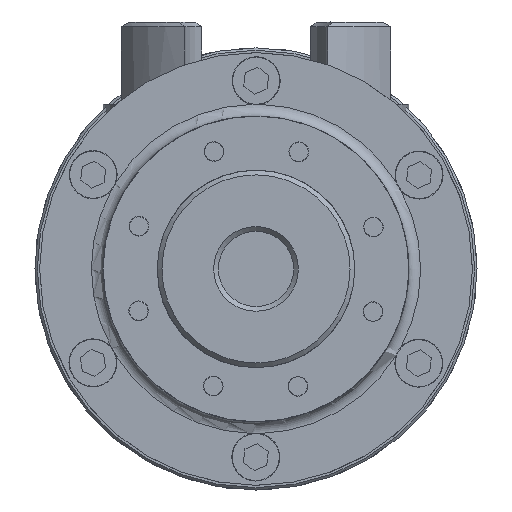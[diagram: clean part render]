
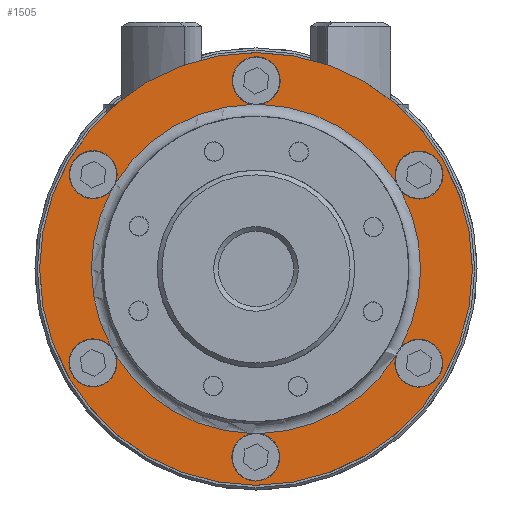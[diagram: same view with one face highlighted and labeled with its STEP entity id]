
A CAD part, left-side view. The second image highlights one B-rep face of the part: STEP entity #1505.
In plain terms, the highlighted planar face has unit normal (-1, 0, 0).
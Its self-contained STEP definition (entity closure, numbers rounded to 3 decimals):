
#1505 = ADVANCED_FACE( '', ( #2793, #2794 ), #2795, .F. );
#2793 = FACE_OUTER_BOUND( '', #3881, .T. );
#2794 = FACE_BOUND( '', #3882, .T. );
#2795 = PLANE( '', #3883 );
#3881 = EDGE_LOOP( '', ( #5718 ) );
#3882 = EDGE_LOOP( '', ( #5719, #5720, #5721, #5722, #5723, #5724, #5725, #5726, #5727, #5728, #5729, #5730 ) );
#3883 = AXIS2_PLACEMENT_3D( '', #5731, #5732, #5733 );
#5718 = ORIENTED_EDGE( '', *, *, #7534, .T. );
#5719 = ORIENTED_EDGE( '', *, *, #7580, .T. );
#5720 = ORIENTED_EDGE( '', *, *, #7567, .T. );
#5721 = ORIENTED_EDGE( '', *, *, #7587, .T. );
#5722 = ORIENTED_EDGE( '', *, *, #7588, .T. );
#5723 = ORIENTED_EDGE( '', *, *, #7585, .T. );
#5724 = ORIENTED_EDGE( '', *, *, #7576, .T. );
#5725 = ORIENTED_EDGE( '', *, *, #7584, .T. );
#5726 = ORIENTED_EDGE( '', *, *, #7550, .T. );
#5727 = ORIENTED_EDGE( '', *, *, #7583, .T. );
#5728 = ORIENTED_EDGE( '', *, *, #7563, .T. );
#5729 = ORIENTED_EDGE( '', *, *, #7582, .T. );
#5730 = ORIENTED_EDGE( '', *, *, #7589, .T. );
#5731 = CARTESIAN_POINT( '', ( -22., 46., 0. ) );
#5732 = DIRECTION( '', ( 1., 0., 0. ) );
#5733 = DIRECTION( '', ( 0., 1., 0. ) );
#7534 = EDGE_CURVE( '', #8674, #8674, #8675, .F. );
#7550 = EDGE_CURVE( '', #8701, #8700, #8703, .T. );
#7563 = EDGE_CURVE( '', #8719, #8718, #8721, .T. );
#7567 = EDGE_CURVE( '', #8551, #8550, #8726, .T. );
#7576 = EDGE_CURVE( '', #8707, #8706, #8741, .T. );
#7580 = EDGE_CURVE( '', #8747, #8551, #8748, .T. );
#7582 = EDGE_CURVE( '', #8718, #8749, #8751, .T. );
#7583 = EDGE_CURVE( '', #8700, #8719, #8752, .T. );
#7584 = EDGE_CURVE( '', #8706, #8701, #8753, .T. );
#7585 = EDGE_CURVE( '', #8754, #8707, #8755, .T. );
#7587 = EDGE_CURVE( '', #8550, #8756, #8758, .T. );
#7588 = EDGE_CURVE( '', #8756, #8754, #8759, .T. );
#7589 = EDGE_CURVE( '', #8749, #8747, #8760, .T. );
#8550 = VERTEX_POINT( '', #9972 );
#8551 = VERTEX_POINT( '', #9973 );
#8674 = VERTEX_POINT( '', #10128 );
#8675 = CIRCLE( '', #10129, 46. );
#8700 = VERTEX_POINT( '', #10158 );
#8701 = VERTEX_POINT( '', #10159 );
#8703 = CIRCLE( '', #10161, 5.1 );
#8706 = VERTEX_POINT( '', #10164 );
#8707 = VERTEX_POINT( '', #10165 );
#8718 = VERTEX_POINT( '', #10194 );
#8719 = VERTEX_POINT( '', #10195 );
#8721 = CIRCLE( '', #10197, 5.1 );
#8726 = CIRCLE( '', #10205, 5.1 );
#8741 = CIRCLE( '', #10220, 5.1 );
#8747 = VERTEX_POINT( '', #10227 );
#8748 = CIRCLE( '', #10228, 35. );
#8749 = VERTEX_POINT( '', #10229 );
#8751 = CIRCLE( '', #10231, 35. );
#8752 = CIRCLE( '', #10232, 35. );
#8753 = CIRCLE( '', #10233, 35. );
#8754 = VERTEX_POINT( '', #10234 );
#8755 = CIRCLE( '', #10235, 35. );
#8756 = VERTEX_POINT( '', #10236 );
#8758 = CIRCLE( '', #10238, 35. );
#8759 = CIRCLE( '', #10239, 5.1 );
#8760 = CIRCLE( '', #10240, 5.1 );
#9972 = CARTESIAN_POINT( '', ( -22., 29.83, 18.308 ) );
#9973 = CARTESIAN_POINT( '', ( -22., 30.77, 16.68 ) );
#10128 = CARTESIAN_POINT( '', ( -22., 0., -46. ) );
#10129 = AXIS2_PLACEMENT_3D( '', #11632, #11633, #11634 );
#10158 = CARTESIAN_POINT( '', ( -22., -29.83, -18.308 ) );
#10159 = CARTESIAN_POINT( '', ( -22., -30.77, -16.68 ) );
#10161 = AXIS2_PLACEMENT_3D( '', #11672, #11673, #11674 );
#10164 = CARTESIAN_POINT( '', ( -22., -30.77, 16.68 ) );
#10165 = CARTESIAN_POINT( '', ( -22., -29.83, 18.308 ) );
#10194 = CARTESIAN_POINT( '', ( -22., 0.94, -34.987 ) );
#10195 = CARTESIAN_POINT( '', ( -22., -0.94, -34.987 ) );
#10197 = AXIS2_PLACEMENT_3D( '', #11693, #11694, #11695 );
#10205 = AXIS2_PLACEMENT_3D( '', #11702, #11703, #11704 );
#10220 = AXIS2_PLACEMENT_3D( '', #11729, #11730, #11731 );
#10227 = CARTESIAN_POINT( '', ( -22., 30.77, -16.68 ) );
#10228 = AXIS2_PLACEMENT_3D( '', #11739, #11740, #11741 );
#10229 = CARTESIAN_POINT( '', ( -22., 29.83, -18.308 ) );
#10231 = AXIS2_PLACEMENT_3D( '', #11745, #11746, #11747 );
#10232 = AXIS2_PLACEMENT_3D( '', #11748, #11749, #11750 );
#10233 = AXIS2_PLACEMENT_3D( '', #11751, #11752, #11753 );
#10234 = CARTESIAN_POINT( '', ( -22., -0.94, 34.987 ) );
#10235 = AXIS2_PLACEMENT_3D( '', #11754, #11755, #11756 );
#10236 = CARTESIAN_POINT( '', ( -22., 0.94, 34.987 ) );
#10238 = AXIS2_PLACEMENT_3D( '', #11760, #11761, #11762 );
#10239 = AXIS2_PLACEMENT_3D( '', #11763, #11764, #11765 );
#10240 = AXIS2_PLACEMENT_3D( '', #11766, #11767, #11768 );
#11632 = CARTESIAN_POINT( '', ( -22., 0., 0. ) );
#11633 = DIRECTION( '', ( 1., 0., 0. ) );
#11634 = DIRECTION( '', ( 0., 0., -1. ) );
#11672 = CARTESIAN_POINT( '', ( -22., -34.641, -20. ) );
#11673 = DIRECTION( '', ( 1., 0., 0. ) );
#11674 = DIRECTION( '', ( 0., 0., -1. ) );
#11693 = CARTESIAN_POINT( '', ( -22., 0., -40. ) );
#11694 = DIRECTION( '', ( 1., 0., 0. ) );
#11695 = DIRECTION( '', ( 0., 0., -1. ) );
#11702 = CARTESIAN_POINT( '', ( -22., 34.641, 20. ) );
#11703 = DIRECTION( '', ( 1., 0., 0. ) );
#11704 = DIRECTION( '', ( 0., 0., -1. ) );
#11729 = CARTESIAN_POINT( '', ( -22., -34.641, 20. ) );
#11730 = DIRECTION( '', ( 1., 0., 0. ) );
#11731 = DIRECTION( '', ( 0., 0., -1. ) );
#11739 = CARTESIAN_POINT( '', ( -22., 0., 0. ) );
#11740 = DIRECTION( '', ( 1., 0., 0. ) );
#11741 = DIRECTION( '', ( 0., 0., -1. ) );
#11745 = CARTESIAN_POINT( '', ( -22., 0., 0. ) );
#11746 = DIRECTION( '', ( 1., 0., 0. ) );
#11747 = DIRECTION( '', ( 0., 0., -1. ) );
#11748 = CARTESIAN_POINT( '', ( -22., 0., 0. ) );
#11749 = DIRECTION( '', ( 1., 0., 0. ) );
#11750 = DIRECTION( '', ( 0., 0., -1. ) );
#11751 = CARTESIAN_POINT( '', ( -22., 0., 0. ) );
#11752 = DIRECTION( '', ( 1., 0., 0. ) );
#11753 = DIRECTION( '', ( 0., 0., -1. ) );
#11754 = CARTESIAN_POINT( '', ( -22., 0., 0. ) );
#11755 = DIRECTION( '', ( 1., 0., 0. ) );
#11756 = DIRECTION( '', ( 0., 0., -1. ) );
#11760 = CARTESIAN_POINT( '', ( -22., 0., 0. ) );
#11761 = DIRECTION( '', ( 1., 0., 0. ) );
#11762 = DIRECTION( '', ( 0., 0., -1. ) );
#11763 = CARTESIAN_POINT( '', ( -22., 0., 40. ) );
#11764 = DIRECTION( '', ( 1., 0., 0. ) );
#11765 = DIRECTION( '', ( 0., 0., -1. ) );
#11766 = CARTESIAN_POINT( '', ( -22., 34.641, -20. ) );
#11767 = DIRECTION( '', ( 1., 0., 0. ) );
#11768 = DIRECTION( '', ( 0., 0., -1. ) );
